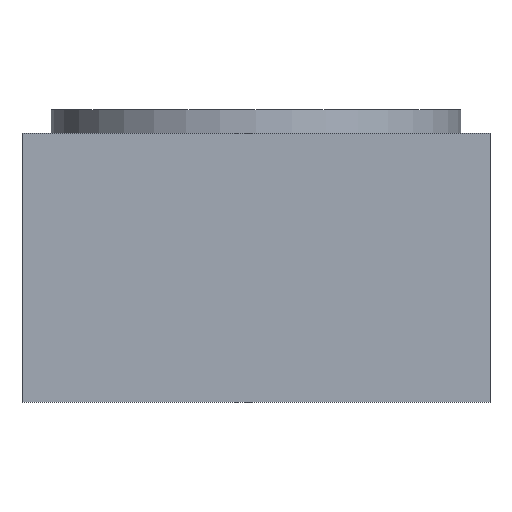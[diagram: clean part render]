
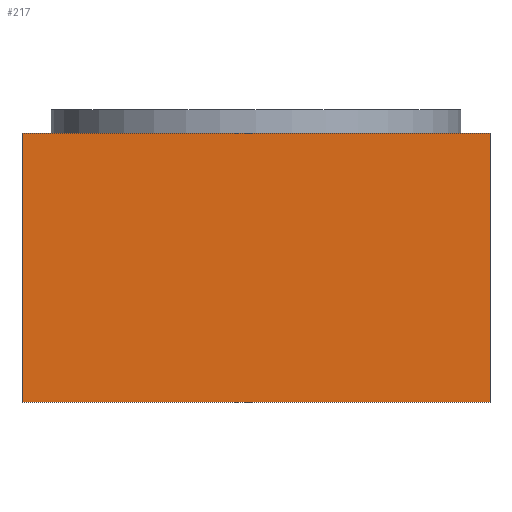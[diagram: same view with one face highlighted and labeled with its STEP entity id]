
A CAD part, left-side view. The second image highlights one B-rep face of the part: STEP entity #217.
In plain terms, the highlighted planar face has unit normal (-1, 0, 0).
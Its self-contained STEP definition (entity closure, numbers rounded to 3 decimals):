
#36=FACE_OUTER_BOUND('',#52,.T.);
#52=EDGE_LOOP('',(#155,#156,#157,#158));
#73=LINE('',#349,#90);
#76=LINE('',#355,#93);
#77=LINE('',#357,#94);
#78=LINE('',#358,#95);
#90=VECTOR('',#277,10.);
#93=VECTOR('',#282,10.);
#94=VECTOR('',#283,10.);
#95=VECTOR('',#284,10.);
#106=VERTEX_POINT('',#345);
#108=VERTEX_POINT('',#348);
#110=VERTEX_POINT('',#354);
#111=VERTEX_POINT('',#356);
#125=EDGE_CURVE('',#108,#106,#73,.T.);
#128=EDGE_CURVE('',#106,#110,#76,.T.);
#129=EDGE_CURVE('',#111,#110,#77,.T.);
#130=EDGE_CURVE('',#108,#111,#78,.T.);
#155=ORIENTED_EDGE('',*,*,#125,.T.);
#156=ORIENTED_EDGE('',*,*,#128,.T.);
#157=ORIENTED_EDGE('',*,*,#129,.F.);
#158=ORIENTED_EDGE('',*,*,#130,.F.);
#206=PLANE('',#247);
#217=ADVANCED_FACE('',(#36),#206,.T.);
#247=AXIS2_PLACEMENT_3D('',#353,#280,#281);
#277=DIRECTION('',(0.,-1.,0.));
#280=DIRECTION('center_axis',(-1.,0.,0.));
#281=DIRECTION('ref_axis',(0.,-1.,0.));
#282=DIRECTION('',(0.,0.,1.));
#283=DIRECTION('',(0.,-1.,0.));
#284=DIRECTION('',(0.,0.,1.));
#345=CARTESIAN_POINT('',(-40.,-40.,2.));
#348=CARTESIAN_POINT('',(-40.,40.,2.));
#349=CARTESIAN_POINT('',(-40.,11.,2.));
#353=CARTESIAN_POINT('Origin',(-40.,40.,0.));
#354=CARTESIAN_POINT('',(-40.,-40.,48.));
#355=CARTESIAN_POINT('',(-40.,-40.,0.));
#356=CARTESIAN_POINT('',(-40.,40.,48.));
#357=CARTESIAN_POINT('',(-40.,-40.,48.));
#358=CARTESIAN_POINT('',(-40.,40.,0.));
